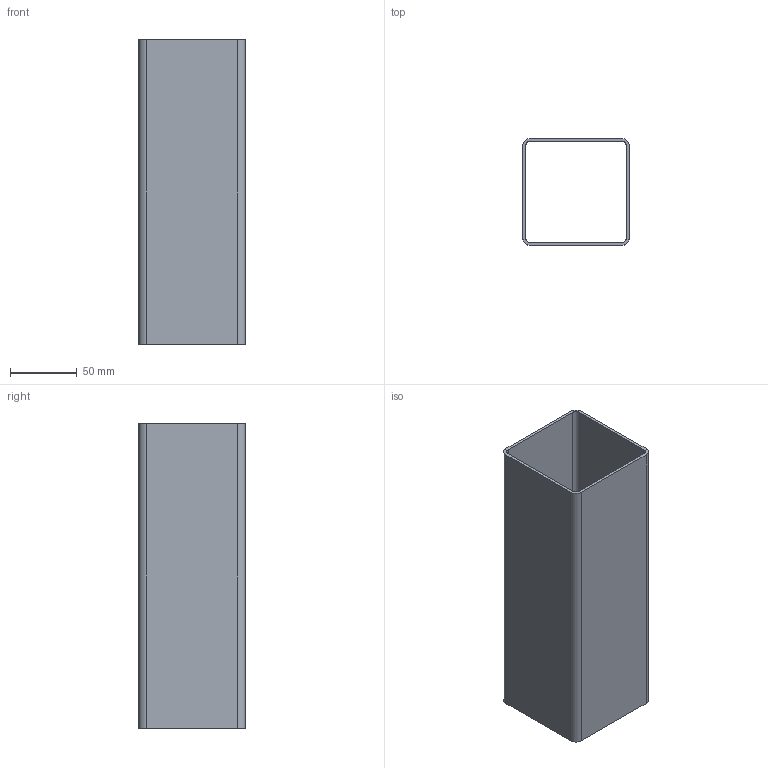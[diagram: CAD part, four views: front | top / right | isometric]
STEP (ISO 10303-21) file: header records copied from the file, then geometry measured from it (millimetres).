
FILE_DESCRIPTION (( 'STEP AP214' ), '1' );
FILE_NAME ('DRP-002-0000-06.STEP', '2010-06-24T17:02:46', ( '' ), ( '' ), 'SwSTEP 2.0', 'SolidWorks 2010', '' );
FILE_SCHEMA (( 'AUTOMOTIVE_DESIGN' ));
Length unit declared in the file: inch
Products named in the file (1): DRP-002-0000-06
Bounding box: 80.33 x 80.33 x 228.6 mm (x, y, z)
Volume: 150197.9 mm3; surface area: 140450.7 mm2
Topology: 1 solids, 1 shells, 18 faces, 48 edges, 32 vertices
Faces by surface type: plane 10, cylinder 8
Entity records: 612 total; most frequent: DIRECTION 102, CARTESIAN_POINT 99, ORIENTED_EDGE 96, EDGE_CURVE 48, AXIS2_PLACEMENT_3D 35, VERTEX_POINT 32, LINE 32, VECTOR 32
